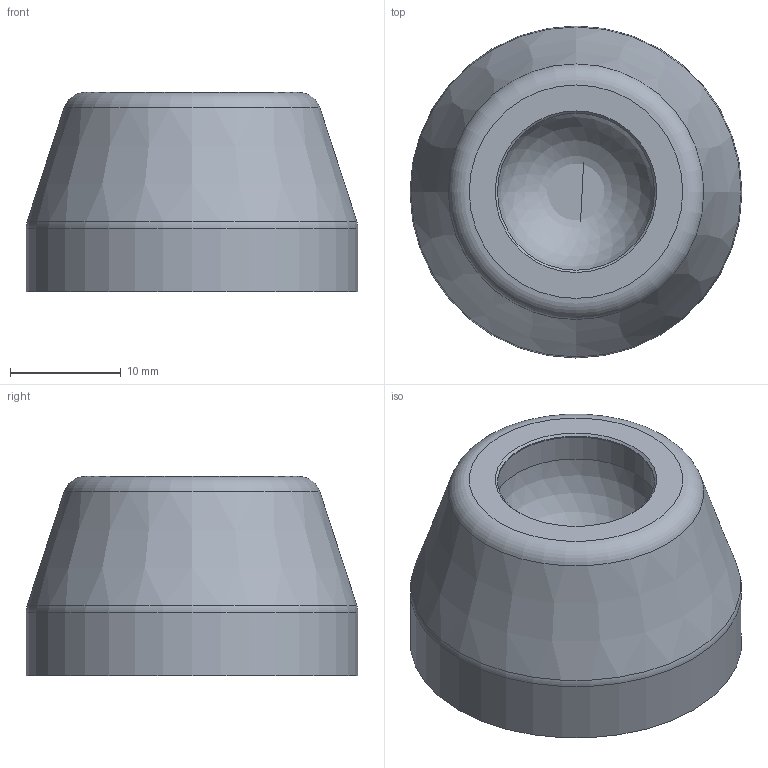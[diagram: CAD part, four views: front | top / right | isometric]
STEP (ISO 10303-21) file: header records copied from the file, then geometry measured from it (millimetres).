
FILE_DESCRIPTION(('STEP AP203'), '1');
FILE_NAME('A00015.1030 _ Îñíîâàíèÿ øàðíèðíûõ îïîð èç ïëàñòèêà, 20°', '', ('UNSPECIFIED'), ('UNSPECIFIED'), 'C3D Converter', 'C3D Toolkit', '');
FILE_SCHEMA(('CONFIG_CONTROL_DESIGN'));
Length unit declared in the file: millimetre
Products named in the file (1): A00015.1030
Bounding box: 30 x 30 x 18 mm (x, y, z)
Surface area: 8312 mm2 (no closed solid volume)
Topology: 0 solids, 1 shells, 178 faces, 481 edges, 269 vertices
Faces by surface type: plane 124, cylinder 30, torus 20, cone 3, sphere 1
Full cylindrical faces by diameter (mm): 8 x1, 8.3 x1, 14.2 x1, 15 x1, 20.6 x1, 30 x1
Entity records: 5855 total; most frequent: CARTESIAN_POINT 1543, DIRECTION 938, ORIENTED_EDGE 852, EDGE_CURVE 442, AXIS2_PLACEMENT_3D 349, VERTEX_POINT 266, LINE 240, VECTOR 240
